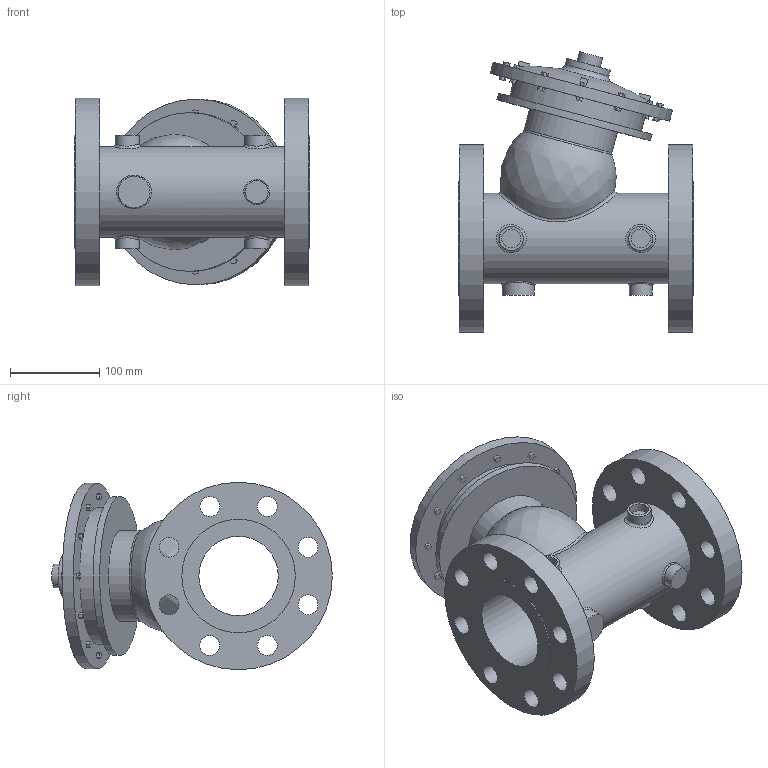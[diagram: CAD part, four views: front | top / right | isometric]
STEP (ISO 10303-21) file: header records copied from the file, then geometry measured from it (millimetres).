
FILE_DESCRIPTION(/* description */ ('VIC FP VALVE PRESSURE RELIEF SERIES 867-7UF (FLG 300)','CAx-IF Rec.Pracs.---Representation and Presentation of Product Manufacturing Information (PMI)---4.0---2014-10-13'),/* implementation_level */ '2;1');
FILE_NAME(/* name */ 'C:\Series 867-7UF\Series 867-7UF final\Victaulic_FP-Bermad_Valve Pressure Relief_Series 867-7UF (FLG 300)\Victaulic_FP-Bermad_Valve Pressure Relief_Series 867-7UF (FLG 300)_3 (80).stp',/* time_stamp */ '2021-09-02T16:53:09+05:00',/* author */ ('kkamble'),/* organization */ ('Victaulic'),/* preprocessor_version */ 'ST-DEVELOPER v17.2',/* originating_system */ 'Autodesk Inventor 2019',/* authorisation */ '');
FILE_SCHEMA (('AP242_MANAGED_MODEL_BASED_3D_ENGINEERING_MIM_LF { 1 0 10303 442 1 1 4 }'));
Length unit declared in the file: inch
Products named in the file (1): 867-7UF-03.0
Bounding box: 263.91 x 314 x 209.8 mm (x, y, z)
Volume: 3979102.5 mm3; surface area: 473421.4 mm2
Topology: 6 solids, 6 shells, 265 faces, 664 edges, 451 vertices
Faces by surface type: plane 210, cylinder 44, bspline 9, torus 2
Full cylindrical faces by diameter (mm): 21.336 x4, 22.225 x16, 25.4 x1, 26.67 x1, 26.873 x4, 35.56 x1, 50.8 x1, 88.9 x1, 101.6 x2, 127 x2, 152.4 x1, 177.8 x1, 207.772 x1, 209.804 x2
Entity records: 9413 total; most frequent: CARTESIAN_POINT 2584, ORIENTED_EDGE 1340, DIRECTION 1263, EDGE_CURVE 670, LINE 511, VECTOR 511, VERTEX_POINT 457, AXIS2_PLACEMENT_3D 376
